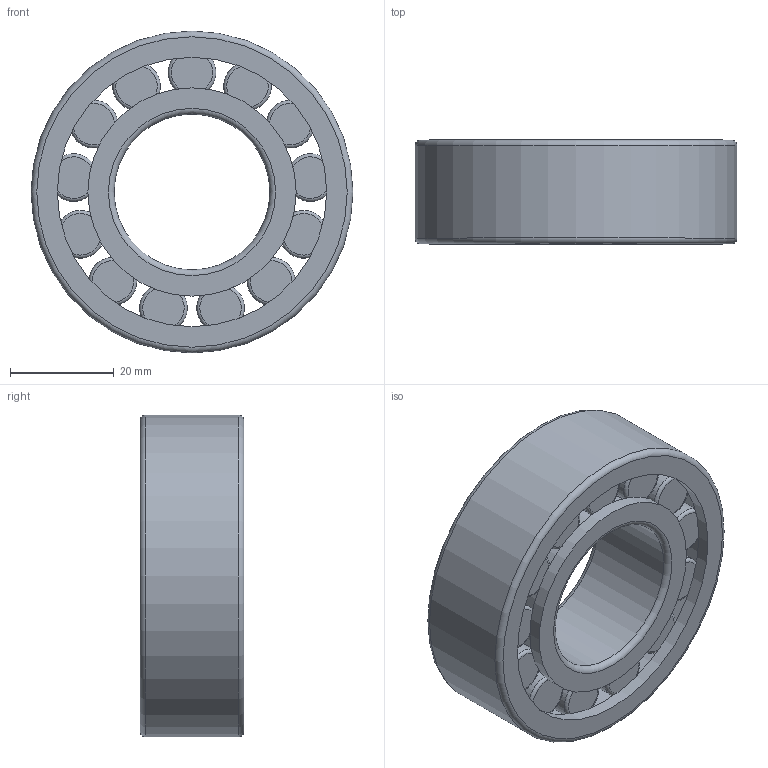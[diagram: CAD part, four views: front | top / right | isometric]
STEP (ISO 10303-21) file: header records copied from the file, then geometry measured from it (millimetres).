
FILE_DESCRIPTION(/* description */ (''),/* implementation_level */ '2;1');
FILE_NAME(/* name */ 'C:\Users\OUREHANEKD\Desktop\Ložiská\MODELY\JRVL\NCF\NCF22\NCF22--\NCF2206V.stp',/* time_stamp */ '2016-09-09T09:16:14+02:00',/* author */ ('OUREHANEKD'),/* organization */ (''),/* preprocessor_version */ 'ST-DEVELOPER v15.6',/* originating_system */ 'Autodesk Inventor 2015',/* authorisation */ '');
FILE_SCHEMA (('AUTOMOTIVE_DESIGN { 1 0 10303 214 3 1 1 }'));
Length unit declared in the file: millimetre
Products named in the file (5): NCF2206V-01; NCF2206V-02; NCF2206V-kr; NCF2206V-roller; NCF2206V
Assembly tree (16 placements, depth 2):
  NCF2206V
    NCF2206V-01
    NCF2206V-02
    NCF2206V-kr
    NCF2206V-roller  x13
Bounding box: 62 x 20 x 62 mm (x, y, z)
Volume: 34361 mm3; surface area: 22996.8 mm2
Topology: 16 solids, 16 shells, 92 faces, 134 edges, 79 vertices
Faces by surface type: plane 37, torus 31, cylinder 24
Full cylindrical faces by diameter (mm): 9.2 x13, 30 x1, 36.8 x1, 40.112 x2, 51.888 x2, 55.2 x2, 56.2 x2, 62 x1
Entity records: 888 total; most frequent: DIRECTION 168, CARTESIAN_POINT 115, AXIS2_PLACEMENT_3D 84, EDGE_LOOP 62, ORIENTED_EDGE 62, STYLED_ITEM 36, FACE_OUTER_BOUND 32, ADVANCED_FACE 32
